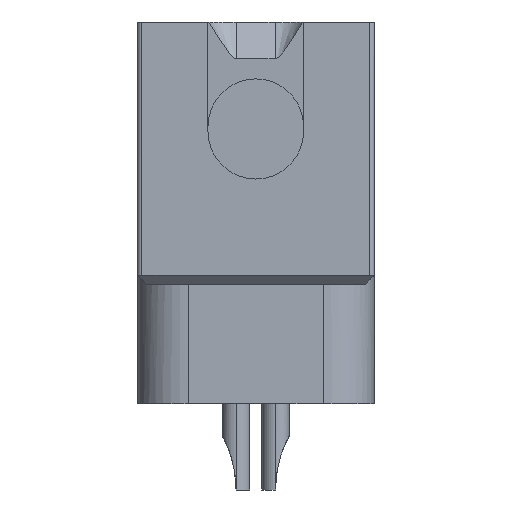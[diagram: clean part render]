
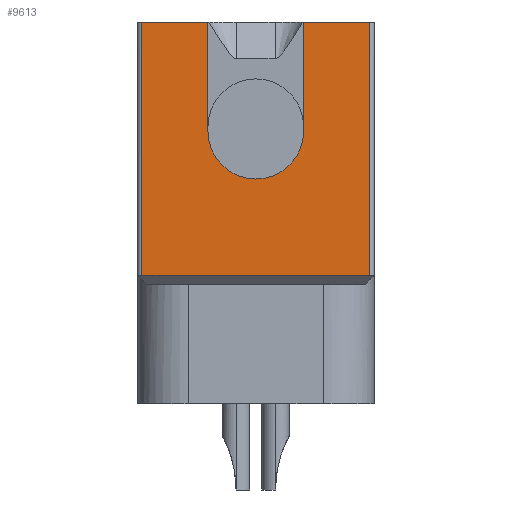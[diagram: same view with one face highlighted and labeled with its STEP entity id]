
A CAD part, left-side view. The second image highlights one B-rep face of the part: STEP entity #9613.
In plain terms, the highlighted planar face has unit normal (-1, 0, 0).
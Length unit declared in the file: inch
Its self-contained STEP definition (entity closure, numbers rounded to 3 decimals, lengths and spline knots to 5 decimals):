
#1001 = DIRECTION ( 'NONE',  ( 0., 0., 1. ) ) ;
#1003 = CARTESIAN_POINT ( 'NONE',  ( -0.3875, 0., 0.115 ) ) ;
#1004 = DIRECTION ( 'NONE',  ( 1., 0., 0. ) ) ;
#1431 = PLANE ( 'NONE',  #19083 ) ;
#1433 = CARTESIAN_POINT ( 'NONE',  ( -0.3875, -0.13, 0.235 ) ) ;
#1438 = DIRECTION ( 'NONE',  ( -1., 0., 0. ) ) ;
#1439 = DIRECTION ( 'NONE',  ( 0., 0., 1. ) ) ;
#4959 = AXIS2_PLACEMENT_3D ( 'NONE', #8997, #8998, #8999 ) ;
#6876 = EDGE_CURVE ( 'NONE', #15297, #15328, #20114, .T. ) ;
#7547 = CIRCLE ( 'NONE', #4959, 0.0525 ) ;
#7631 = LINE ( 'NONE', #9318, #7636 ) ;
#7636 = VECTOR ( 'NONE', #9322, 39.37008 ) ;
#7646 = LINE ( 'NONE', #9340, #7649 ) ;
#7648 = LINE ( 'NONE', #9343, #7650 ) ;
#7649 = VECTOR ( 'NONE', #9341, 39.37008 ) ;
#7650 = VECTOR ( 'NONE', #9347, 39.37008 ) ;
#7763 = LINE ( 'NONE', #9751, #7765 ) ;
#7765 = VECTOR ( 'NONE', #9753, 39.37008 ) ;
#7767 = LINE ( 'NONE', #9757, #7770 ) ;
#7769 = LINE ( 'NONE', #9759, #7772 ) ;
#7770 = VECTOR ( 'NONE', #9758, 39.37008 ) ;
#7771 = LINE ( 'NONE', #9761, #7774 ) ;
#7772 = VECTOR ( 'NONE', #9760, 39.37008 ) ;
#7774 = VECTOR ( 'NONE', #9762, 39.37008 ) ;
#8997 = CARTESIAN_POINT ( 'NONE',  ( -0.3875, 0., 0.115 ) ) ;
#8998 = DIRECTION ( 'NONE',  ( 1., 0., 0. ) ) ;
#8999 = DIRECTION ( 'NONE',  ( 0., 0., 1. ) ) ;
#9318 = CARTESIAN_POINT ( 'NONE',  ( -0.3875, -0.0525, 0.235 ) ) ;
#9322 = DIRECTION ( 'NONE',  ( 0., 0., 1. ) ) ;
#9340 = CARTESIAN_POINT ( 'NONE',  ( -0.3875, 0.0525, 0.235 ) ) ;
#9341 = DIRECTION ( 'NONE',  ( 0., 0., -1. ) ) ;
#9343 = CARTESIAN_POINT ( 'NONE',  ( -0.3875, 0.125, 0.235 ) ) ;
#9347 = DIRECTION ( 'NONE',  ( 0., 0., -1. ) ) ;
#9613 = ADVANCED_FACE ( 'NONE', ( #20321 ), #1431, .T. ) ;
#9751 = CARTESIAN_POINT ( 'NONE',  ( -0.3875, -0.13, -0.043 ) ) ;
#9753 = DIRECTION ( 'NONE',  ( 0., -1., 0. ) ) ;
#9757 = CARTESIAN_POINT ( 'NONE',  ( -0.3875, -0.125, 0.235 ) ) ;
#9758 = DIRECTION ( 'NONE',  ( 0., 0., 1. ) ) ;
#9759 = CARTESIAN_POINT ( 'NONE',  ( -0.3875, -0.13, 0.235 ) ) ;
#9760 = DIRECTION ( 'NONE',  ( 0., 1., 0. ) ) ;
#9761 = CARTESIAN_POINT ( 'NONE',  ( -0.3875, -0.13, 0.235 ) ) ;
#9762 = DIRECTION ( 'NONE',  ( 0., 1., 0. ) ) ;
#10822 = CARTESIAN_POINT ( 'NONE',  ( -0.3875, 0., 0.0625 ) ) ;
#10851 = CARTESIAN_POINT ( 'NONE',  ( -0.3875, 0.0525, 0.115 ) ) ;
#11242 = CARTESIAN_POINT ( 'NONE',  ( -0.3875, -0.0525, 0.115 ) ) ;
#11303 = CARTESIAN_POINT ( 'NONE',  ( -0.3875, 0.125, -0.043 ) ) ;
#11305 = CARTESIAN_POINT ( 'NONE',  ( -0.3875, -0.0525, 0.235 ) ) ;
#11308 = CARTESIAN_POINT ( 'NONE',  ( -0.3875, 0.125, 0.235 ) ) ;
#11309 = CARTESIAN_POINT ( 'NONE',  ( -0.3875, 0.0525, 0.235 ) ) ;
#11344 = CARTESIAN_POINT ( 'NONE',  ( -0.3875, -0.125, 0.235 ) ) ;
#11352 = CARTESIAN_POINT ( 'NONE',  ( -0.3875, -0.125, -0.043 ) ) ;
#14662 = EDGE_CURVE ( 'NONE', #15719, #15297, #7547, .T. ) ;
#14722 = EDGE_CURVE ( 'NONE', #15719, #15782, #7631, .T. ) ;
#14730 = EDGE_CURVE ( 'NONE', #15786, #15328, #7646, .T. ) ;
#14732 = EDGE_CURVE ( 'NONE', #15785, #15780, #7648, .T. ) ;
#14802 = EDGE_CURVE ( 'NONE', #15780, #15829, #7763, .T. ) ;
#14804 = EDGE_CURVE ( 'NONE', #15829, #15821, #7767, .T. ) ;
#14805 = EDGE_CURVE ( 'NONE', #15821, #15782, #7769, .T. ) ;
#14806 = EDGE_CURVE ( 'NONE', #15786, #15785, #7771, .T. ) ;
#15297 = VERTEX_POINT ( 'NONE', #10822 ) ;
#15328 = VERTEX_POINT ( 'NONE', #10851 ) ;
#15719 = VERTEX_POINT ( 'NONE', #11242 ) ;
#15780 = VERTEX_POINT ( 'NONE', #11303 ) ;
#15782 = VERTEX_POINT ( 'NONE', #11305 ) ;
#15785 = VERTEX_POINT ( 'NONE', #11308 ) ;
#15786 = VERTEX_POINT ( 'NONE', #11309 ) ;
#15821 = VERTEX_POINT ( 'NONE', #11344 ) ;
#15829 = VERTEX_POINT ( 'NONE', #11352 ) ;
#17272 = ORIENTED_EDGE ( 'NONE', *, *, #14732, .T. ) ;
#17273 = ORIENTED_EDGE ( 'NONE', *, *, #14802, .T. ) ;
#17274 = ORIENTED_EDGE ( 'NONE', *, *, #14804, .T. ) ;
#17275 = ORIENTED_EDGE ( 'NONE', *, *, #14805, .T. ) ;
#17276 = ORIENTED_EDGE ( 'NONE', *, *, #14722, .F. ) ;
#17277 = ORIENTED_EDGE ( 'NONE', *, *, #14662, .T. ) ;
#17278 = ORIENTED_EDGE ( 'NONE', *, *, #6876, .T. ) ;
#17279 = ORIENTED_EDGE ( 'NONE', *, *, #14730, .F. ) ;
#17280 = ORIENTED_EDGE ( 'NONE', *, *, #14806, .T. ) ;
#18969 = AXIS2_PLACEMENT_3D ( 'NONE', #1003, #1004, #1001 ) ;
#19083 = AXIS2_PLACEMENT_3D ( 'NONE', #1433, #1438, #1439 ) ;
#20114 = CIRCLE ( 'NONE', #18969, 0.0525 ) ;
#20321 = FACE_OUTER_BOUND ( 'NONE', #20551, .T. ) ;
#20551 = EDGE_LOOP ( 'NONE', ( #17272, #17273, #17274, #17275, #17276, #17277, #17278, #17279, #17280 ) ) ;
